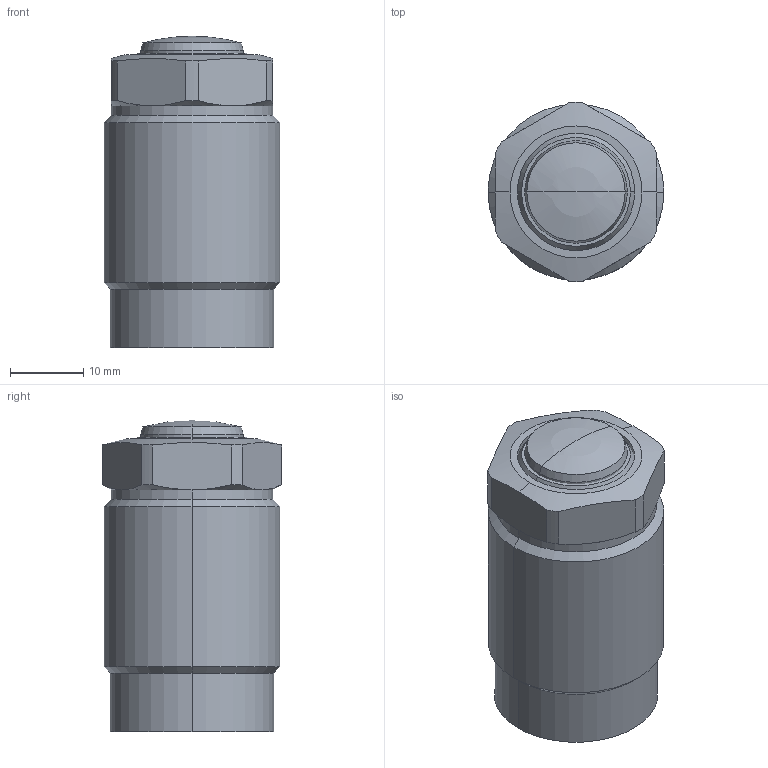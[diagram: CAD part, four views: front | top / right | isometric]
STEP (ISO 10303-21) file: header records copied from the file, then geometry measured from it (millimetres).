
FILE_DESCRIPTION((' '),'2;1');
FILE_NAME( 'TGP24-RM.x_t.stp', '2025-02-10T16:03:53', (' '), ('--- Datakit www.datakit.com---'), ' Datakit CrossCadWare V2024.1 Dec 21 2023', 'Mastercam 2025', ' ');
FILE_SCHEMA(('AUTOMOTIVE_DESIGN { 1 0 10303 214 1 1 1 1 }'));
Length unit declared in the file: millimetre
Products named in the file (1): TGP24-RM
Bounding box: 24 x 24.49 x 42.5 mm (x, y, z)
Volume: 19011.7 mm3; surface area: 4976.7 mm2
Topology: 2 solids, 2 shells, 65 faces, 147 edges, 89 vertices
Faces by surface type: cylinder 26, cone 18, plane 15, torus 4, sphere 2
Entity records: 1906 total; most frequent: CARTESIAN_POINT 418, DIRECTION 334, ORIENTED_EDGE 286, AXIS2_PLACEMENT_3D 145, EDGE_CURVE 143, VERTEX_POINT 89, CIRCLE 79, EDGE_LOOP 72
